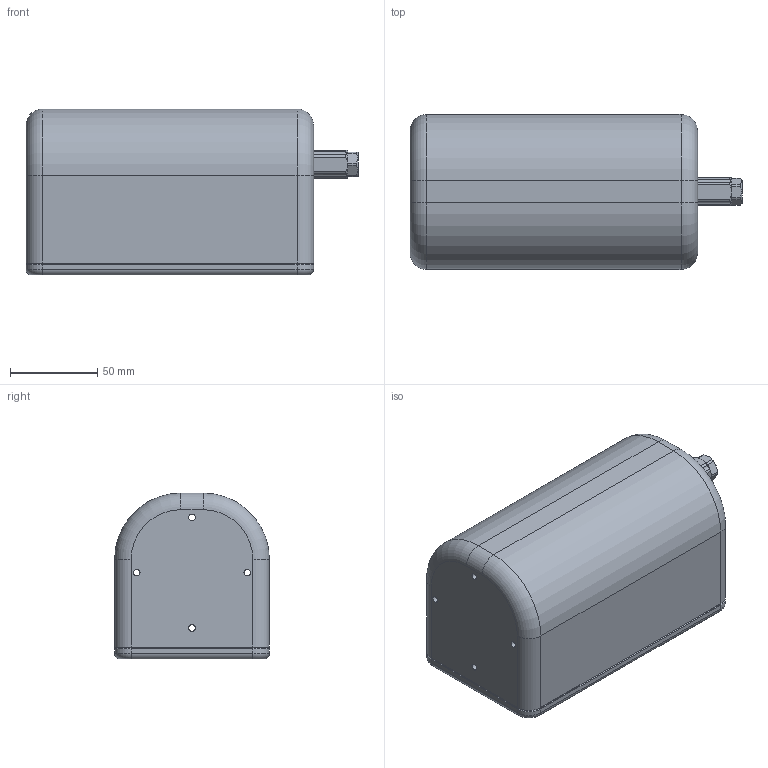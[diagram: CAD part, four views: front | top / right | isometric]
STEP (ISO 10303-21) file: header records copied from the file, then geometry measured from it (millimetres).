
FILE_DESCRIPTION (( 'STEP AP214' ), '1' );
FILE_NAME ('C3-BR.STEP', '2026-05-08T18:37:48', ( '' ), ( '' ), 'SwSTEP 2.0', 'SolidWorks 2020', '' );
FILE_SCHEMA (( 'AUTOMOTIVE_DESIGN' ));
Length unit declared in the file: metre
Products named in the file (1): C3-BR
Bounding box: 190.59 x 88.9 x 95.25 mm (x, y, z)
Surface area: 76544.7 mm2 (no closed solid volume)
Topology: 0 solids, 20 shells, 696 faces, 2081 edges, 1358 vertices
Faces by surface type: plane 288, cone 204, cylinder 134, bspline 56, torus 14
Entity records: 34206 total; most frequent: CARTESIAN_POINT 9044, ORIENTED_EDGE 3637, DIRECTION 3351, EDGE_CURVE 2061, VERTEX_POINT 1358, AXIS2_PLACEMENT_3D 1231, VECTOR 889, LINE 889
